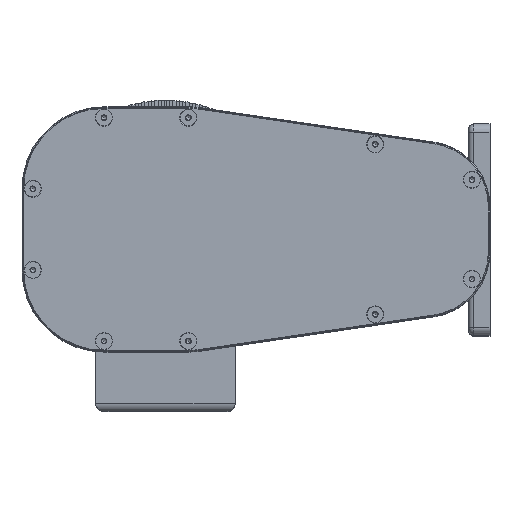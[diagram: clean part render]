
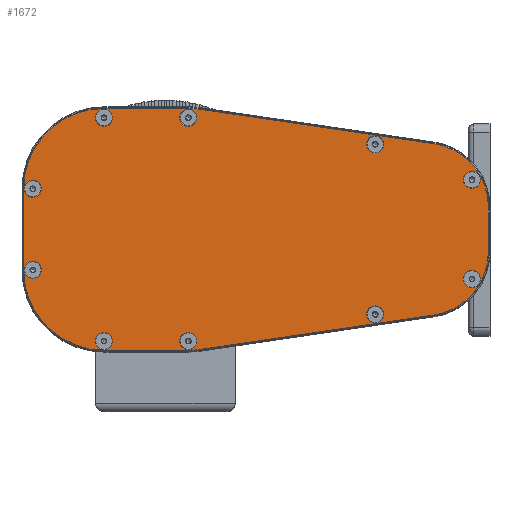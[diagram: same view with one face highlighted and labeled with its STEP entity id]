
A CAD part, top view. The second image highlights one B-rep face of the part: STEP entity #1672.
In plain terms, the highlighted planar face has unit normal (0, 0, 1).
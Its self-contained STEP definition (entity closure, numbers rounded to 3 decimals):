
#1672=ADVANCED_FACE('',(#5218,#5219,#5220,#5221,#5222,#5223,#5224,#5225,#5226,#5227,#5228),#5229,.F.);
#5218=FACE_BOUND('',#9663,.T.);
#5219=FACE_BOUND('',#9664,.T.);
#5220=FACE_BOUND('',#9665,.T.);
#5221=FACE_BOUND('',#9666,.T.);
#5222=FACE_BOUND('',#9667,.T.);
#5223=FACE_BOUND('',#9668,.T.);
#5224=FACE_BOUND('',#9669,.T.);
#5225=FACE_BOUND('',#9670,.T.);
#5226=FACE_BOUND('',#9671,.T.);
#5227=FACE_BOUND('',#9672,.T.);
#5228=FACE_OUTER_BOUND('',#9673,.T.);
#5229=PLANE('',#9674);
#7191=EDGE_CURVE('',#11894,#11894,#11895,.T.);
#7193=EDGE_CURVE('',#11897,#11897,#11898,.T.);
#7195=EDGE_CURVE('',#11900,#11900,#11901,.T.);
#7197=EDGE_CURVE('',#11903,#11903,#11904,.T.);
#7199=EDGE_CURVE('',#11906,#11906,#11907,.T.);
#7201=EDGE_CURVE('',#11909,#11909,#11910,.T.);
#7203=EDGE_CURVE('',#11912,#11912,#11913,.T.);
#7205=EDGE_CURVE('',#11915,#11915,#11916,.T.);
#7207=EDGE_CURVE('',#11918,#11918,#11919,.T.);
#7209=EDGE_CURVE('',#11921,#11921,#11922,.T.);
#9663=EDGE_LOOP('',(#19879));
#9664=EDGE_LOOP('',(#19880));
#9665=EDGE_LOOP('',(#19881));
#9666=EDGE_LOOP('',(#19882));
#9667=EDGE_LOOP('',(#19883));
#9668=EDGE_LOOP('',(#19884));
#9669=EDGE_LOOP('',(#19885));
#9670=EDGE_LOOP('',(#19886));
#9671=EDGE_LOOP('',(#19887));
#9672=EDGE_LOOP('',(#19888));
#9673=EDGE_LOOP('',(#19889,#19890,#19891,#19892,#19893,#19894,#19895,#19896,#19897,#19898,#19899,#19900));
#9674=AXIS2_PLACEMENT_3D('',#19901,#19902,#19903);
#11894=VERTEX_POINT('',#26985);
#11895=CIRCLE('',#26986,5.2);
#11897=VERTEX_POINT('',#26988);
#11898=CIRCLE('',#26989,5.2);
#11900=VERTEX_POINT('',#26991);
#11901=CIRCLE('',#26992,5.2);
#11903=VERTEX_POINT('',#26994);
#11904=CIRCLE('',#26995,5.2);
#11906=VERTEX_POINT('',#26997);
#11907=CIRCLE('',#26998,5.2);
#11909=VERTEX_POINT('',#27000);
#11910=CIRCLE('',#27001,5.2);
#11912=VERTEX_POINT('',#27003);
#11913=CIRCLE('',#27004,5.2);
#11915=VERTEX_POINT('',#27006);
#11916=CIRCLE('',#27007,5.2);
#11918=VERTEX_POINT('',#27009);
#11919=CIRCLE('',#27010,5.2);
#11921=VERTEX_POINT('',#27012);
#11922=CIRCLE('',#27013,5.2);
#19879=ORIENTED_EDGE('',*,*,#7209,.T.);
#19880=ORIENTED_EDGE('',*,*,#7207,.T.);
#19881=ORIENTED_EDGE('',*,*,#7205,.T.);
#19882=ORIENTED_EDGE('',*,*,#7203,.T.);
#19883=ORIENTED_EDGE('',*,*,#7201,.T.);
#19884=ORIENTED_EDGE('',*,*,#7199,.T.);
#19885=ORIENTED_EDGE('',*,*,#7197,.T.);
#19886=ORIENTED_EDGE('',*,*,#7195,.T.);
#19887=ORIENTED_EDGE('',*,*,#7193,.T.);
#19888=ORIENTED_EDGE('',*,*,#7191,.T.);
#19889=ORIENTED_EDGE('',*,*,#29526,.F.);
#19890=ORIENTED_EDGE('',*,*,#29527,.F.);
#19891=ORIENTED_EDGE('',*,*,#29528,.F.);
#19892=ORIENTED_EDGE('',*,*,#29529,.F.);
#19893=ORIENTED_EDGE('',*,*,#29530,.F.);
#19894=ORIENTED_EDGE('',*,*,#29531,.F.);
#19895=ORIENTED_EDGE('',*,*,#29532,.F.);
#19896=ORIENTED_EDGE('',*,*,#29533,.F.);
#19897=ORIENTED_EDGE('',*,*,#29534,.F.);
#19898=ORIENTED_EDGE('',*,*,#29535,.F.);
#19899=ORIENTED_EDGE('',*,*,#29536,.F.);
#19900=ORIENTED_EDGE('',*,*,#29537,.F.);
#19901=CARTESIAN_POINT('',(-98.719,0.,451.6));
#19902=DIRECTION('',(0.0,0.0,-1.0));
#19903=DIRECTION('',(1.0,0.0,0.0));
#26985=CARTESIAN_POINT('',(-190.7,68.15,451.6));
#26986=AXIS2_PLACEMENT_3D('',#32321,#32322,#32323);
#26988=CARTESIAN_POINT('',(-139.2,68.15,451.6));
#26989=AXIS2_PLACEMENT_3D('',#32324,#32325,#32326);
#26991=CARTESIAN_POINT('',(-25.2,51.884,451.6));
#26992=AXIS2_PLACEMENT_3D('',#32327,#32328,#32329);
#26994=CARTESIAN_POINT('',(33.8,30.278,451.6));
#26995=AXIS2_PLACEMENT_3D('',#32330,#32331,#32332);
#26997=CARTESIAN_POINT('',(33.8,-30.278,451.6));
#26998=AXIS2_PLACEMENT_3D('',#32333,#32334,#32335);
#27000=CARTESIAN_POINT('',(-25.2,-51.884,451.6));
#27001=AXIS2_PLACEMENT_3D('',#32336,#32337,#32338);
#27003=CARTESIAN_POINT('',(-139.2,-68.15,451.6));
#27004=AXIS2_PLACEMENT_3D('',#32339,#32340,#32341);
#27006=CARTESIAN_POINT('',(-190.7,-68.15,451.6));
#27007=AXIS2_PLACEMENT_3D('',#32342,#32343,#32344);
#27009=CARTESIAN_POINT('',(-234.1,-24.75,451.6));
#27010=AXIS2_PLACEMENT_3D('',#32345,#32346,#32347);
#27012=CARTESIAN_POINT('',(-234.1,24.75,451.6));
#27013=AXIS2_PLACEMENT_3D('',#32348,#32349,#32350);
#29526=EDGE_CURVE('',#36529,#36530,#36531,.T.);
#29527=EDGE_CURVE('',#36532,#36529,#36533,.T.);
#29528=EDGE_CURVE('',#36534,#36532,#36535,.T.);
#29529=EDGE_CURVE('',#36536,#36534,#36537,.T.);
#29530=EDGE_CURVE('',#36538,#36536,#36539,.T.);
#29531=EDGE_CURVE('',#36540,#36538,#36541,.T.);
#29532=EDGE_CURVE('',#36542,#36540,#36543,.T.);
#29533=EDGE_CURVE('',#36544,#36542,#36545,.T.);
#29534=EDGE_CURVE('',#36546,#36544,#36547,.T.);
#29535=EDGE_CURVE('',#36548,#36546,#36549,.T.);
#29536=EDGE_CURVE('',#36550,#36548,#36551,.T.);
#29537=EDGE_CURVE('',#36530,#36550,#36552,.T.);
#32321=CARTESIAN_POINT('',(-185.5,68.15,451.6));
#32322=DIRECTION('',(0.0,0.0,-1.0));
#32323=DIRECTION('',(-1.0,0.0,0.0));
#32324=CARTESIAN_POINT('',(-134.0,68.15,451.6));
#32325=DIRECTION('',(0.0,0.0,-1.0));
#32326=DIRECTION('',(-1.0,0.0,0.0));
#32327=CARTESIAN_POINT('',(-20.0,51.884,451.6));
#32328=DIRECTION('',(0.0,0.0,-1.0));
#32329=DIRECTION('',(-1.0,0.0,0.0));
#32330=CARTESIAN_POINT('',(39.0,30.278,451.6));
#32331=DIRECTION('',(0.0,0.0,-1.0));
#32332=DIRECTION('',(-1.0,0.0,0.0));
#32333=CARTESIAN_POINT('',(39.0,-30.278,451.6));
#32334=DIRECTION('',(0.0,0.0,-1.0));
#32335=DIRECTION('',(-1.0,0.0,0.0));
#32336=CARTESIAN_POINT('',(-20.0,-51.884,451.6));
#32337=DIRECTION('',(0.0,0.0,-1.0));
#32338=DIRECTION('',(-1.0,0.0,0.0));
#32339=CARTESIAN_POINT('',(-134.0,-68.15,451.6));
#32340=DIRECTION('',(0.0,0.0,-1.0));
#32341=DIRECTION('',(-1.0,0.0,0.0));
#32342=CARTESIAN_POINT('',(-185.5,-68.15,451.6));
#32343=DIRECTION('',(0.0,0.0,-1.0));
#32344=DIRECTION('',(-1.0,0.0,0.0));
#32345=CARTESIAN_POINT('',(-228.9,-24.75,451.6));
#32346=DIRECTION('',(0.0,0.0,-1.0));
#32347=DIRECTION('',(-1.0,0.0,0.0));
#32348=CARTESIAN_POINT('',(-228.9,24.75,451.6));
#32349=DIRECTION('',(0.0,0.0,-1.0));
#32350=DIRECTION('',(-1.0,0.0,0.0));
#36529=VERTEX_POINT('',#48701);
#36530=VERTEX_POINT('',#48702);
#36531=LINE('',#48703,#48704);
#36532=VERTEX_POINT('',#48705);
#36533=CIRCLE('',#48706,49.0);
#36534=VERTEX_POINT('',#48707);
#36535=LINE('',#48708,#48709);
#36536=VERTEX_POINT('',#48710);
#36537=CIRCLE('',#48711,49.0);
#36538=VERTEX_POINT('',#48712);
#36539=LINE('',#48713,#48714);
#36540=VERTEX_POINT('',#48715);
#36541=CIRCLE('',#48716,39.0);
#36542=VERTEX_POINT('',#48717);
#36543=LINE('',#48718,#48719);
#36544=VERTEX_POINT('',#48720);
#36545=CIRCLE('',#48721,39.0);
#36546=VERTEX_POINT('',#48722);
#36547=LINE('',#48723,#48724);
#36548=VERTEX_POINT('',#48725);
#36549=CIRCLE('',#48726,49.0);
#36550=VERTEX_POINT('',#48727);
#36551=LINE('',#48728,#48729);
#36552=CIRCLE('',#48730,49.0);
#48701=CARTESIAN_POINT('',(-234.5,-24.75,451.6));
#48702=CARTESIAN_POINT('',(-234.5,24.75,451.6));
#48703=CARTESIAN_POINT('',(-234.5,0.,451.6));
#48704=VECTOR('',#58301,1.0);
#48705=CARTESIAN_POINT('',(-185.5,-73.75,451.6));
#48706=AXIS2_PLACEMENT_3D('',#58302,#58303,#58304);
#48707=CARTESIAN_POINT('',(-133.661,-73.75,451.6));
#48708=CARTESIAN_POINT('',(-129.15,-73.75,451.6));
#48709=VECTOR('',#58305,1.0);
#48710=CARTESIAN_POINT('',(-126.524,-73.227,451.6));
#48711=AXIS2_PLACEMENT_3D('',#58306,#58307,#58308);
#48712=CARTESIAN_POINT('',(15.68,-52.292,451.6));
#48713=CARTESIAN_POINT('',(-72.089,-65.213,451.6));
#48714=VECTOR('',#58309,1.);
#48715=CARTESIAN_POINT('',(49.0,-13.708,451.6));
#48716=AXIS2_PLACEMENT_3D('',#58310,#58311,#58312);
#48717=CARTESIAN_POINT('',(49.0,13.708,451.6));
#48718=CARTESIAN_POINT('',(49.0,0.,451.6));
#48719=VECTOR('',#58313,1.0);
#48720=CARTESIAN_POINT('',(15.68,52.292,451.6));
#48721=AXIS2_PLACEMENT_3D('',#58314,#58315,#58316);
#48722=CARTESIAN_POINT('',(-126.524,73.227,451.6));
#48723=CARTESIAN_POINT('',(-72.089,65.213,451.6));
#48724=VECTOR('',#58317,1.);
#48725=CARTESIAN_POINT('',(-133.661,73.75,451.6));
#48726=AXIS2_PLACEMENT_3D('',#58318,#58319,#58320);
#48727=CARTESIAN_POINT('',(-185.5,73.75,451.6));
#48728=CARTESIAN_POINT('',(-129.15,73.75,451.6));
#48729=VECTOR('',#58321,1.0);
#48730=AXIS2_PLACEMENT_3D('',#58322,#58323,#58324);
#58301=DIRECTION('',(0.0,1.0,0.0));
#58302=CARTESIAN_POINT('',(-185.5,-24.75,451.6));
#58303=DIRECTION('',(-0.0,0.0,-1.0));
#58304=DIRECTION('',(-0.707,-0.707,0.0));
#58305=DIRECTION('',(-1.0,0.0,0.0));
#58306=CARTESIAN_POINT('',(-133.661,-24.75,451.6));
#58307=DIRECTION('',(0.0,0.0,-1.0));
#58308=DIRECTION('',(0.073,-0.997,0.0));
#58309=DIRECTION('',(-0.989,-0.146,0.0));
#58310=CARTESIAN_POINT('',(10.0,-13.708,451.6));
#58311=DIRECTION('',(0.0,0.0,-1.0));
#58312=DIRECTION('',(0.757,-0.654,0.0));
#58313=DIRECTION('',(0.0,-1.0,0.0));
#58314=CARTESIAN_POINT('',(10.0,13.708,451.6));
#58315=DIRECTION('',(0.0,0.0,-1.0));
#58316=DIRECTION('',(0.757,0.654,0.0));
#58317=DIRECTION('',(0.989,-0.146,0.0));
#58318=CARTESIAN_POINT('',(-133.661,24.75,451.6));
#58319=DIRECTION('',(0.0,0.0,-1.0));
#58320=DIRECTION('',(0.073,0.997,0.0));
#58321=DIRECTION('',(1.0,0.0,0.0));
#58322=CARTESIAN_POINT('',(-185.5,24.75,451.6));
#58323=DIRECTION('',(0.0,0.0,-1.0));
#58324=DIRECTION('',(-0.707,0.707,0.0));
